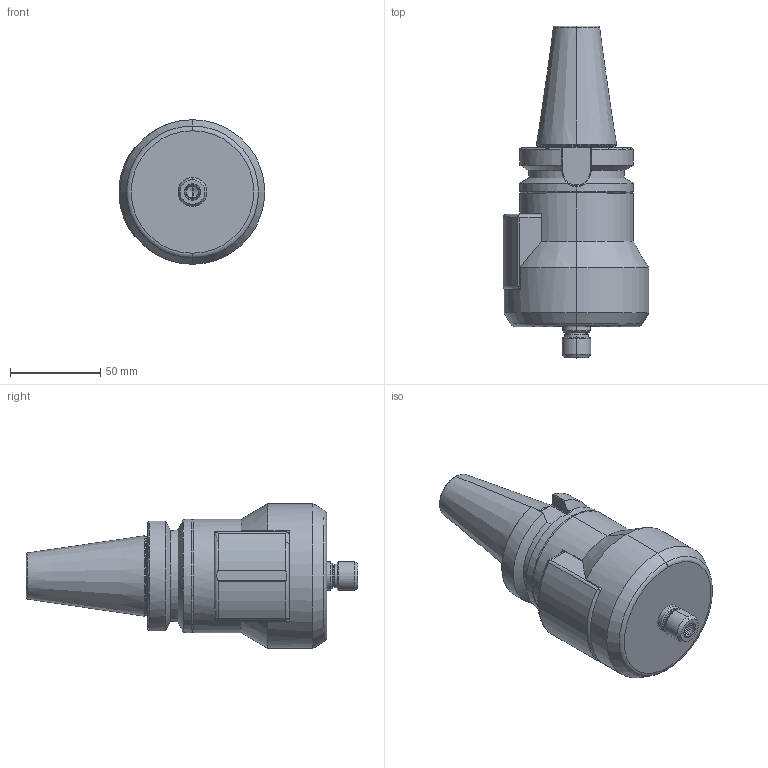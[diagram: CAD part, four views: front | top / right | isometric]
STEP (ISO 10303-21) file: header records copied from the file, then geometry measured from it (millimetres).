
FILE_DESCRIPTION (( 'STEP AP214' ), '1' );
FILE_NAME ('TJS-HPC-BT40-Detail.STEP', '2017-06-14T12:41:46', ( '' ), ( '' ), 'SwSTEP 2.0', 'SolidWorks 2015', '' );
FILE_SCHEMA (( 'AUTOMOTIVE_DESIGN' ));
Length unit declared in the file: millimetre
Products named in the file (1): TJS-HPC-BT40-Detail
Bounding box: 80.55 x 183.61 x 80 mm (x, y, z)
Volume: 438804.2 mm3; surface area: 45957 mm2
Topology: 1 solids, 1 shells, 154 faces, 375 edges, 229 vertices
Faces by surface type: cylinder 47, cone 45, plane 39, torus 17, bspline 4, sphere 2
Entity records: 5752 total; most frequent: CARTESIAN_POINT 2182, DIRECTION 746, ORIENTED_EDGE 738, EDGE_CURVE 369, AXIS2_PLACEMENT_3D 299, VERTEX_POINT 229, EDGE_LOOP 166, FACE_OUTER_BOUND 154
